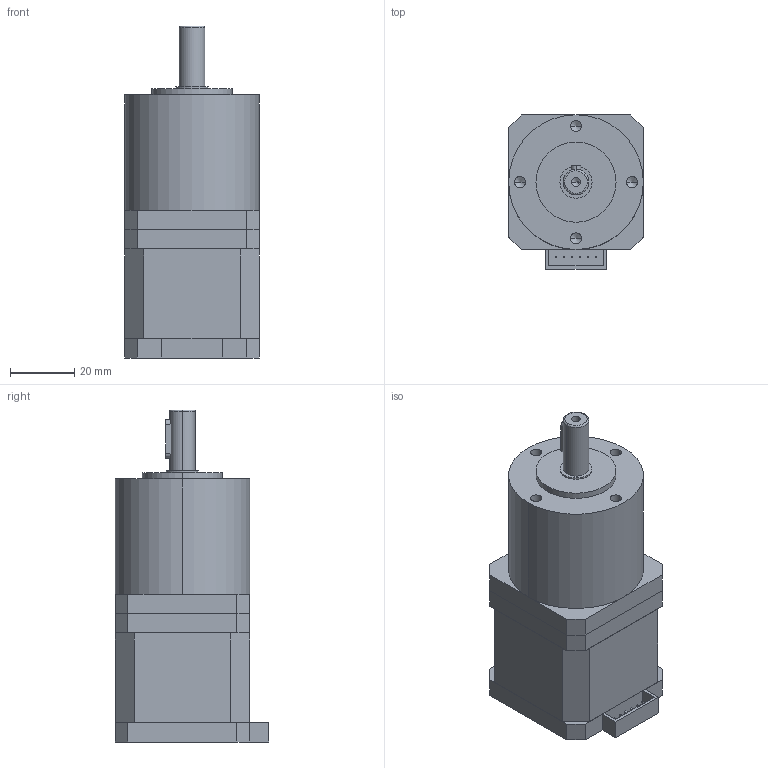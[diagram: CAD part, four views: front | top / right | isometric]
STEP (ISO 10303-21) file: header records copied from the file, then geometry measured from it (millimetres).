
FILE_DESCRIPTION (( 'STEP AP203' ), '1' );
FILE_NAME ('42PG010-D17-0440.STEP', '2019-09-21T09:04:17', ( 'China' ), ( 'Home' ), 'SwSTEP 2.0', 'SolidWorks 2016', '' );
FILE_SCHEMA (( 'CONFIG_CONTROL_DESIGN' ));
Length unit declared in the file: millimetre
Products named in the file (1): 42PG010-D17-0440
Bounding box: 42 x 48 x 103.5 mm (x, y, z)
Volume: 130488.2 mm3; surface area: 27365.1 mm2
Topology: 5 solids, 5 shells, 123 faces, 291 edges, 183 vertices
Faces by surface type: plane 90, cylinder 21, cone 10, bspline 2
Entity records: 3508 total; most frequent: CARTESIAN_POINT 624, DIRECTION 569, ORIENTED_EDGE 562, EDGE_CURVE 281, LINE 233, VECTOR 233, VERTEX_POINT 183, AXIS2_PLACEMENT_3D 168
